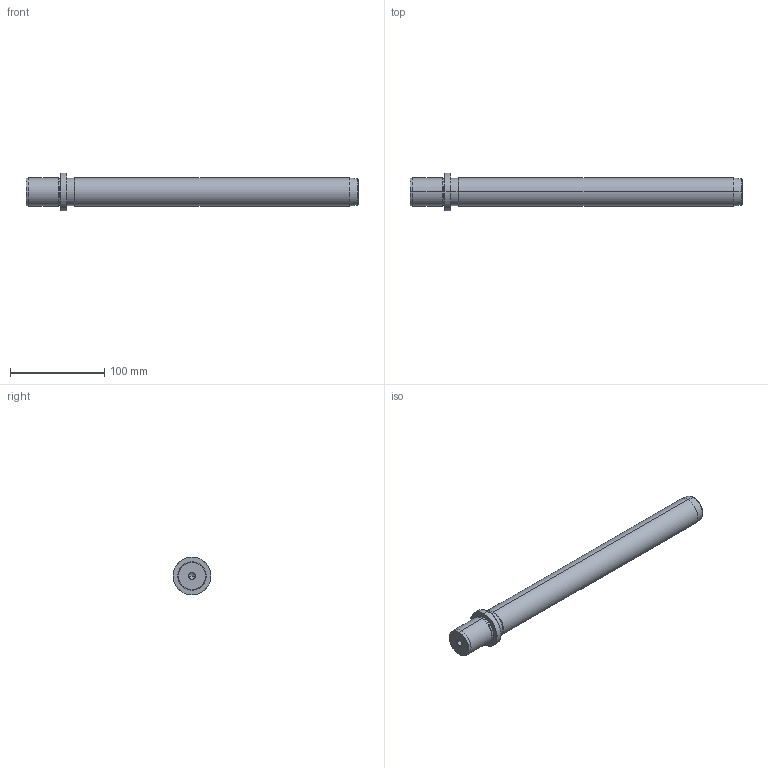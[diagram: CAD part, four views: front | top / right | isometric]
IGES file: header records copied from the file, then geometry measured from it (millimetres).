
Start section: START RECORD GO HERE.
Global section: file name: 719-30x315.igs; native system: DASSAULT SYSTEMES CATIA V5 R20 - www.3ds.com; preprocessor: CATIA Version 5 Release 20 ; author: Utente; organization: NB04-ASUS; date: 20210103.170258; units: millimetre
Bounding box: 352 x 40 x 40 mm (x, y, z)
Surface area: 36756.2 mm2 (no closed solid volume)
Topology: 0 solids, 0 shells, 36 faces, 196 edges, 192 vertices
Faces by surface type: revolution 32, plane 4
